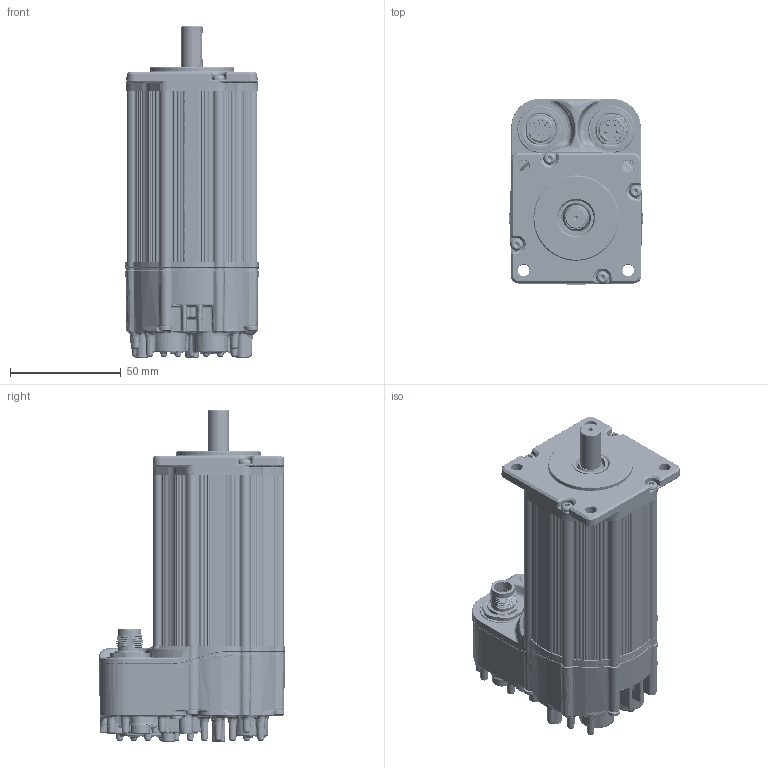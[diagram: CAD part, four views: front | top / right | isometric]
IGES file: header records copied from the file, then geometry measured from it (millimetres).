
Start section: SolidWorks IGES file using analytic representation for surfaces
Global section: file name: C:\TeknicPDM\EtherPath CPM-S\EtherPath CPM-S Customer Files\CPM-S Customer Models\CPMS 233x.igs; native system: SolidWorks 2020; preprocessor: SolidWorks 2020; author: mike_berezny; date: 241007.172114; units: inch
Bounding box: 60.26 x 84.12 x 149.81 mm (x, y, z)
Surface area: 127723.5 mm2 (no closed solid volume)
Topology: 0 solids, 0 shells, 11887 faces, 105585 edges, 104837 vertices
Faces by surface type: bspline 6200, revolution 5687
